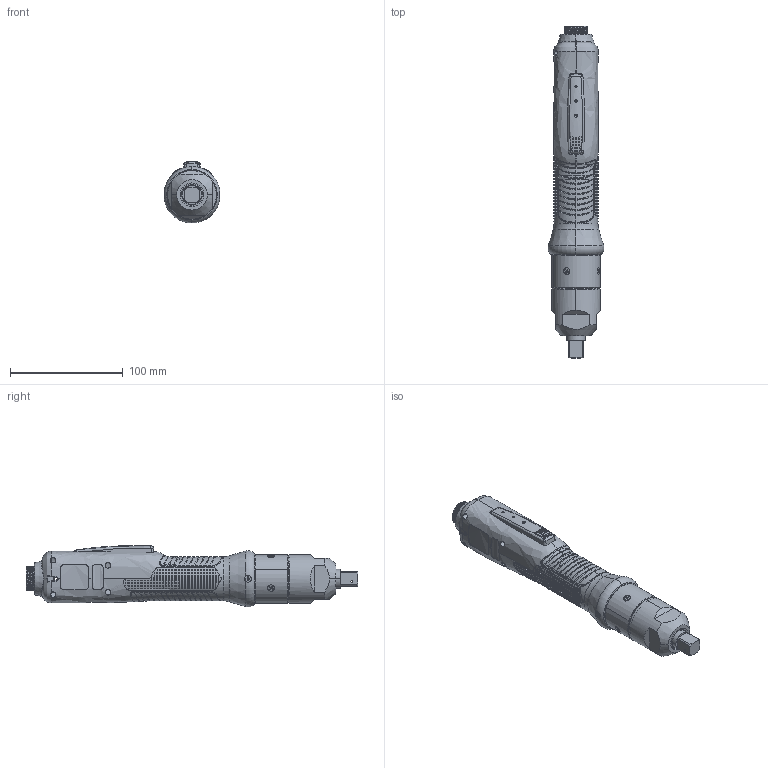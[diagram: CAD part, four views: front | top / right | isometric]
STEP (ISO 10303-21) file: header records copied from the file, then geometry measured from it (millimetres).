
FILE_DESCRIPTION (( 'STEP AP203' ), '1' );
FILE_NAME ('EXT-MD3236_3264-1_2.STEP', '2025-11-14T00:21:53', ( '' ), ( '' ), 'SwSTEP 2.0', 'SolidWorks 2024', '' );
FILE_SCHEMA (( 'CONFIG_CONTROL_DESIGN' ));
Length unit declared in the file: millimetre
Products named in the file (1): EXT-MD3236_3264-1_2
Bounding box: 49.44 x 293.8 x 54.8 mm (x, y, z)
Surface area: 49450.2 mm2 (no closed solid volume)
Topology: 0 solids, 92 shells, 1984 faces, 6842 edges, 4816 vertices
Faces by surface type: plane 1104, cylinder 474, bspline 323, cone 46, torus 26, sphere 11
Entity records: 98575 total; most frequent: CARTESIAN_POINT 46768, ORIENTED_EDGE 10425, DIRECTION 8505, EDGE_CURVE 6836, VERTEX_POINT 4816, LINE 2851, VECTOR 2851, AXIS2_PLACEMENT_3D 2827
